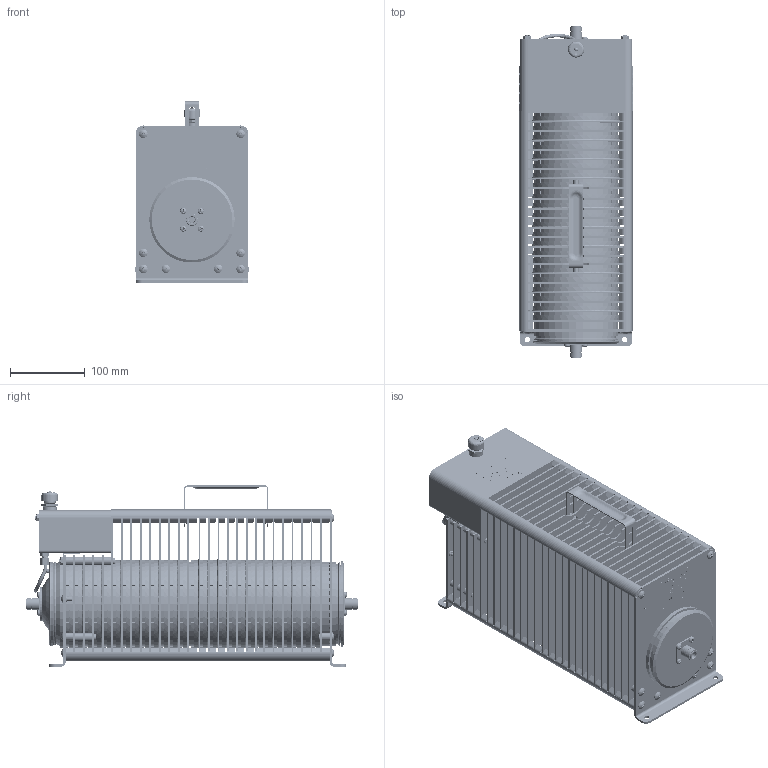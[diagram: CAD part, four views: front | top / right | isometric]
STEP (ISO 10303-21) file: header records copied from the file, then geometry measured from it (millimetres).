
FILE_DESCRIPTION(/* description */ ('Unknown'),/* implementation_level */ '2;1');
FILE_NAME(/* name */ '8325_RevY',/* time_stamp */ '2018-02-02T08:32:42-05:00',/* author */ ('Unknown'),/* organization */ ('Unknown'),/* preprocessor_version */ 'ST-DEVELOPER v16.7',/* originating_system */ 'DEX',/* authorisation */ $);
FILE_SCHEMA (('AUTOMOTIVE_DESIGN {1 0 10303 214 3 1 1}'));
Products named in the file (1): 8325
Bounding box: 152.32 x 444.08 x 242.52 mm (x, y, z)
Volume: 2577259.3 mm3; surface area: 1983164.9 mm2
Topology: 158 solids, 158 shells, 13872 faces, 40424 edges, 27445 vertices
Faces by surface type: plane 11903, cylinder 894, bspline 804, cone 200, torus 40, sphere 31
Full cylindrical faces by diameter (mm): 0.468 x1, 0.76 x1, 0.762 x1, 0.823 x1, 1.037 x1, 1.524 x1, 2.156 x8, 2.972 x2, 3.061 x2, 3.175 x1, 3.307 x8, 3.81 x1, 4.166 x16, 4.572 x8, 4.763 x3, 4.826 x20, 4.877 x2, 4.902 x1, 4.953 x1, 5.105 x40, 5.156 x4, 5.16 x1, 5.791 x6, 6.223 x2, 6.35 x144, 6.756 x1, 7.01 x2, 7.137 x2, 7.144 x4, 7.239 x2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
Entity records: 534342 total; most frequent: CARTESIAN_POINT 177177, ORIENTED_EDGE 79120, DIRECTION 64986, EDGE_CURVE 39560, LINE 30194, VECTOR 30194, VERTEX_POINT 27310, AXIS2_PLACEMENT_3D 17396
